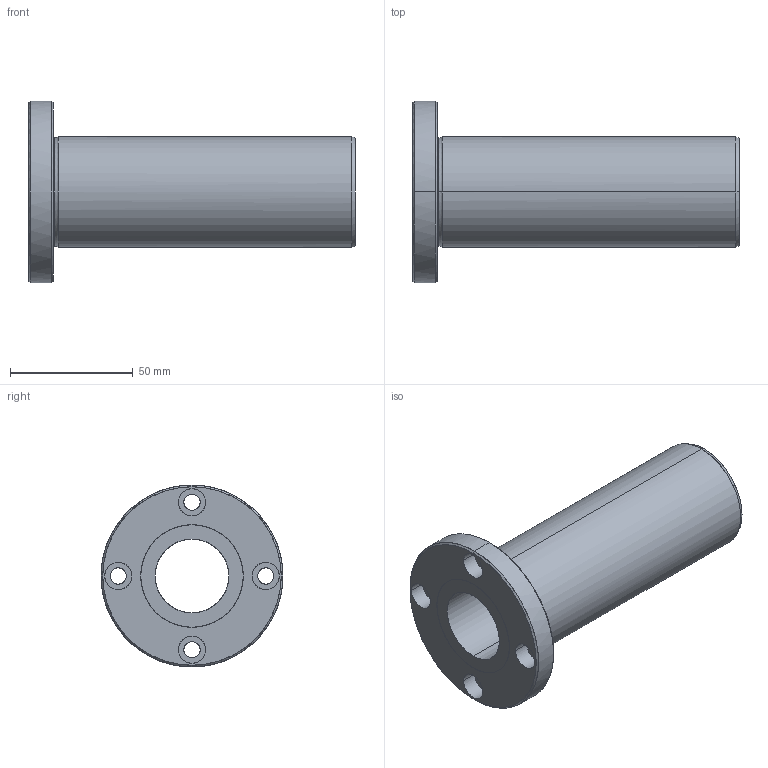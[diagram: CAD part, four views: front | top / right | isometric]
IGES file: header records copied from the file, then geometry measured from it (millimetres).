
Global section: file name: No Iges File Name specified; native system: AutoDesk Inventor R10; preprocessor: AutoDesk Inventor Iges Exporter R10; author: No Author specified; organization: No Organization specified; date: 20101216.153930; units: millimetre
Bounding box: 133 x 74 x 74 mm (x, y, z)
Surface area: 40152.7 mm2 (no closed solid volume)
Topology: 0 solids, 0 shells, 45 faces, 320 edges, 320 vertices
Faces by surface type: bspline 45
